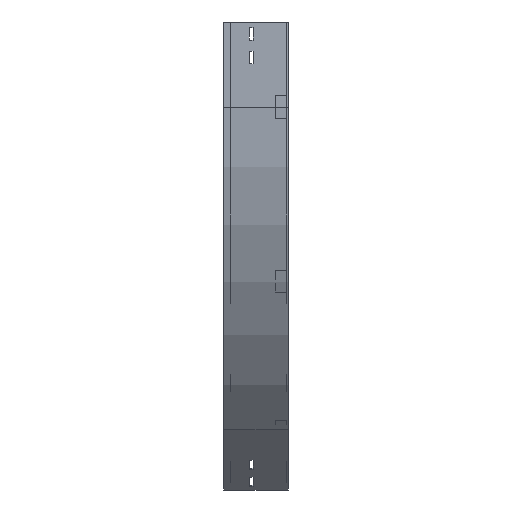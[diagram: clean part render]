
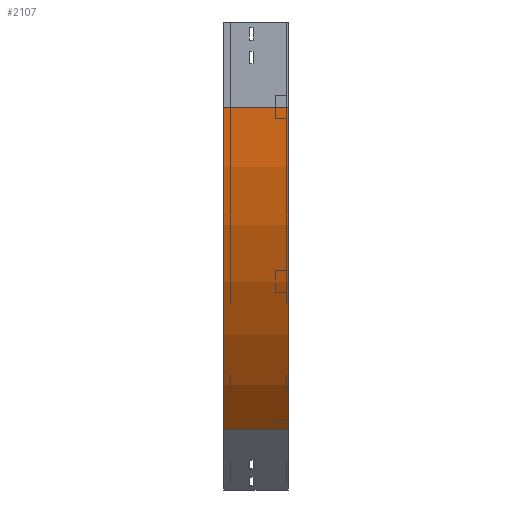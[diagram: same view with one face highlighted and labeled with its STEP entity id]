
A CAD part, left-side view. The second image highlights one B-rep face of the part: STEP entity #2107.
In plain terms, the highlighted cylindrical face has radius 800 mm (diameter 1600 mm), a partial arc.
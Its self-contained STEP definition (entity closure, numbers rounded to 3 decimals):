
#92 = CIRCLE ( 'NONE', #709, 800. ) ;
#217 = DIRECTION ( 'NONE',  ( 0., -1., 0. ) ) ;
#235 = AXIS2_PLACEMENT_3D ( 'NONE', #902, #924, #1674 ) ;
#290 = CARTESIAN_POINT ( 'NONE',  ( 234.315, 0., -715.685 ) ) ;
#405 = VERTEX_POINT ( 'NONE', #1004 ) ;
#587 = EDGE_CURVE ( 'NONE', #405, #2480, #1755, .T. ) ;
#696 = DIRECTION ( 'NONE',  ( 0., -1., 0. ) ) ;
#709 = AXIS2_PLACEMENT_3D ( 'NONE', #1675, #3776, #1102 ) ;
#721 = DIRECTION ( 'NONE',  ( -1., 0., 0. ) ) ;
#884 = FACE_OUTER_BOUND ( 'NONE', #3528, .T. ) ;
#902 = CARTESIAN_POINT ( 'NONE',  ( 800., 0., -150. ) ) ;
#924 = DIRECTION ( 'NONE',  ( 0., -1., 0. ) ) ;
#1004 = CARTESIAN_POINT ( 'NONE',  ( 0., 112.5, -150. ) ) ;
#1102 = DIRECTION ( 'NONE',  ( -1., 0., 0. ) ) ;
#1133 = ORIENTED_EDGE ( 'NONE', *, *, #587, .F. ) ;
#1225 = LINE ( 'NONE', #290, #2399 ) ;
#1340 = CARTESIAN_POINT ( 'NONE',  ( 0., 0., -150. ) ) ;
#1571 = ORIENTED_EDGE ( 'NONE', *, *, #2422, .T. ) ;
#1637 = EDGE_CURVE ( 'NONE', #2480, #3256, #92, .T. ) ;
#1652 = CARTESIAN_POINT ( 'NONE',  ( 234.315, 112.5, -715.685 ) ) ;
#1674 = DIRECTION ( 'NONE',  ( 0., 0., -1. ) ) ;
#1675 = CARTESIAN_POINT ( 'NONE',  ( 800., 0., -150. ) ) ;
#1755 = LINE ( 'NONE', #3805, #3565 ) ;
#2107 = ADVANCED_FACE ( 'NONE', ( #884 ), #3259, .T. ) ;
#2194 = CARTESIAN_POINT ( 'NONE',  ( 800., 112.5, -150. ) ) ;
#2399 = VECTOR ( 'NONE', #3225, 1000. ) ;
#2422 = EDGE_CURVE ( 'NONE', #405, #2477, #2912, .T. ) ;
#2477 = VERTEX_POINT ( 'NONE', #1652 ) ;
#2480 = VERTEX_POINT ( 'NONE', #1340 ) ;
#2540 = CARTESIAN_POINT ( 'NONE',  ( 234.315, 0., -715.685 ) ) ;
#2772 = AXIS2_PLACEMENT_3D ( 'NONE', #2194, #696, #721 ) ;
#2912 = CIRCLE ( 'NONE', #2772, 800. ) ;
#3225 = DIRECTION ( 'NONE',  ( 0., -1., 0. ) ) ;
#3247 = ORIENTED_EDGE ( 'NONE', *, *, #1637, .F. ) ;
#3256 = VERTEX_POINT ( 'NONE', #2540 ) ;
#3259 = CYLINDRICAL_SURFACE ( 'NONE', #235, 800. ) ;
#3528 = EDGE_LOOP ( 'NONE', ( #3247, #1133, #1571, #3698 ) ) ;
#3565 = VECTOR ( 'NONE', #217, 1000. ) ;
#3698 = ORIENTED_EDGE ( 'NONE', *, *, #3768, .T. ) ;
#3768 = EDGE_CURVE ( 'NONE', #2477, #3256, #1225, .T. ) ;
#3776 = DIRECTION ( 'NONE',  ( 0., -1., 0. ) ) ;
#3805 = CARTESIAN_POINT ( 'NONE',  ( 0., 0., -150. ) ) ;
